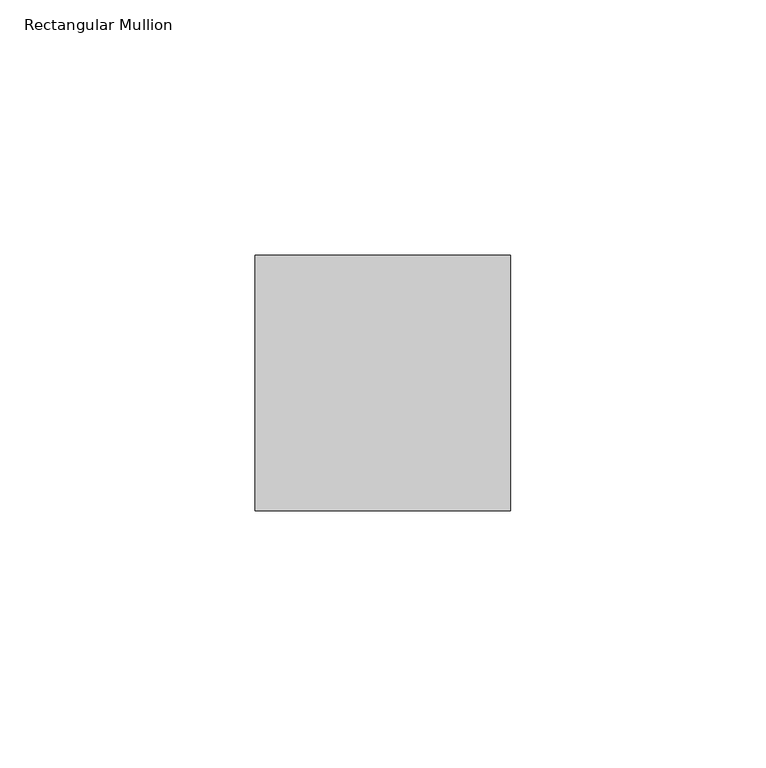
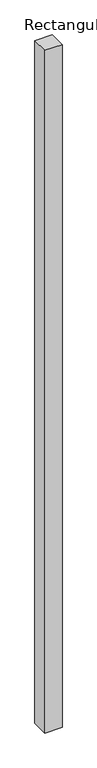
"""IFC4 building model written with IfcOpenShell, lengths in millimetres: member geometry, Rectangular Mullion : Mullion_Curtain Wall_Generic Showcase_50x50mm."""

from ifc_helpers import new_model, si_unit, frame, origin, place, context, project, spatial, polyline, outline, extrude, source, transform, mapped, element, save


def rectangular_mullion_267ea699(model_context):
    return source(origin(), model_context, "Body", "SweptSolid", [
        extrude(outline(polyline([(0.0, 50.0), (0.0, 0.0), (-50.0, 0.0), (-50.0, 50.0), (0.0, 50.0)])), frame((0.0, 0.0, -2096.0060738), z_axis=(0.0, 0.0, 1.0), x_axis=(1.0, 0.0, 0.0)), (0.0, 0.0, 1.0), 2096.0060738),
    ])


if __name__ == "__main__":
    model = new_model("IFC4")
    model_context = context("Model", 3, world=origin())
    ifc_project = project(units=[si_unit("LENGTHUNIT", "METRE", prefix="MILLI")], contexts=[model_context])
    site = spatial("IfcSite", under=ifc_project)
    building = spatial("IfcBuilding", under=site)
    placement = place(None, origin())
    rectangular_mullion_shape = rectangular_mullion_267ea699(model_context)
    element("IfcMember", 1, ObjectType="Rectangular Mullion : Mullion_Curtain Wall_Generic Showcase_50x50mm", at=placement, inside=building, context=model_context, shape_type="MappedRepresentation", body=[
        mapped(rectangular_mullion_shape, transform((0.0, 0.0, 0.0), x_axis=(1.0, 0.0, 0.0), y_axis=(0.0, 1.0, 0.0), z_axis=(0.0, 0.0, 1.0))),
    ])
    save(model, "model.ifc")
